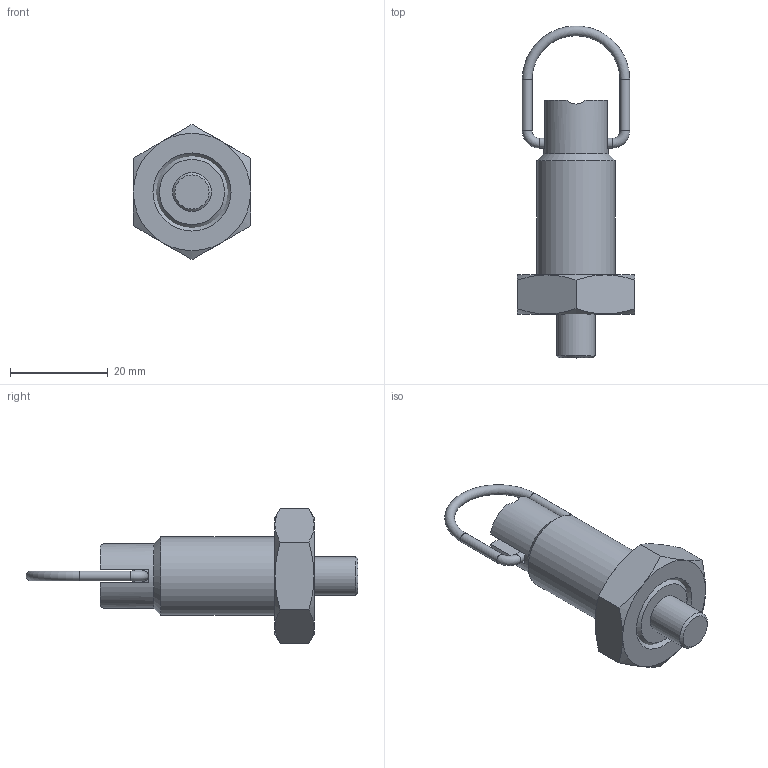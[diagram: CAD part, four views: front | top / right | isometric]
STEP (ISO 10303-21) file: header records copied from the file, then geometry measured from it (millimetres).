
FILE_DESCRIPTION( ( 'STEP AP203' ), '1' );
FILE_NAME( 'C:/Temp/Ganter_Step_05_03_2020/data/3_1/gn_413/gn413_st/gn413_st_ck/Steel-Indexing plunger GN 413-8-M16x1,5-CK-ST (deactivated- 0).stp', '2020-03-12T09:10:53', ( 'License CC BY-ND 4.0' ), ( 'CADENAS' ), ' ', 'PARTsolutions', ' ' );
FILE_SCHEMA( ( 'CONFIG_CONTROL_DESIGN' ) );
Length unit declared in the file: millimetre
Products named in the file (4): Steel-Indexing plunger GN 413-8-M16x1,5-CK-ST (deactivated- 0); _Steel-Indexing plunger  GN 413-8-M16-CK-ST (deactivated)_f; _Steel-Indexing plunger GN 413-8-M16-CK-ST (deactivated)_b; _Steel-Indexing plunger GN 413-8-M16-CK-ST (deactivated)_km
Assembly tree (3 placements, depth 2):
  Steel-Indexing plunger GN 413-8-M16x1,5-CK-ST (deactivated- 0)
    _Steel-Indexing plunger  GN 413-8-M16-CK-ST (deactivated)_f
    _Steel-Indexing plunger GN 413-8-M16-CK-ST (deactivated)_b
    _Steel-Indexing plunger GN 413-8-M16-CK-ST (deactivated)_km
Bounding box: 24 x 67.99 x 27.71 mm (x, y, z)
Volume: 10395.5 mm3; surface area: 7001.8 mm2
Topology: 3 solids, 3 shells, 65 faces, 141 edges, 86 vertices
Faces by surface type: plane 26, cone 20, cylinder 16, torus 3
Full cylindrical faces by diameter (mm): 2 x4, 8 x4, 8.3 x1, 11 x2, 13.2 x1, 13.835 x1, 16 x1
Entity records: 1959 total; most frequent: CARTESIAN_POINT 543, DIRECTION 274, ORIENTED_EDGE 222, AXIS2_PLACEMENT_3D 124, EDGE_CURVE 111, EDGE_LOOP 100, FACE_OUTER_BOUND 82, VERTEX_POINT 81
